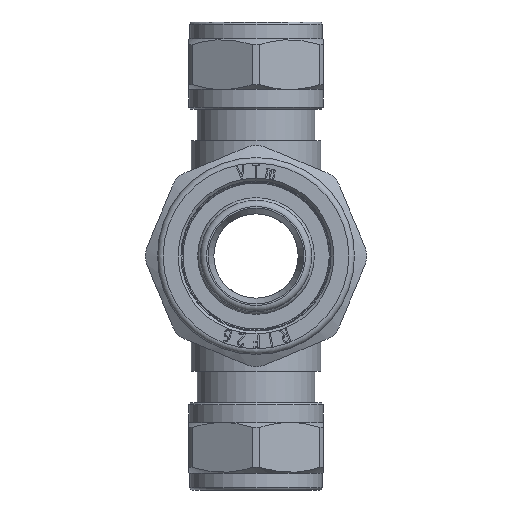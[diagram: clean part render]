
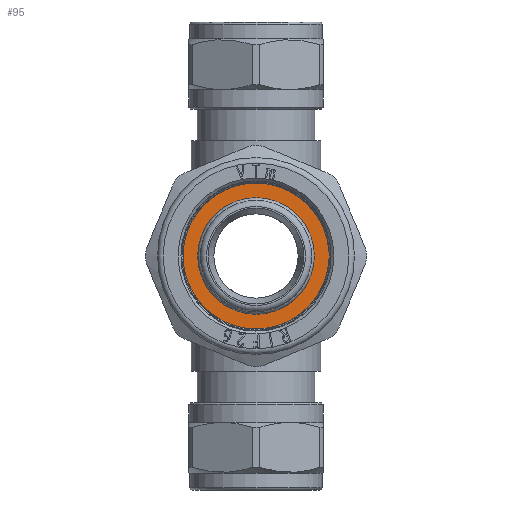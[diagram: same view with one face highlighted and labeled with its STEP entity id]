
A CAD part, front view. The second image highlights one B-rep face of the part: STEP entity #95.
In plain terms, the highlighted planar face has unit normal (0, -1, 0).
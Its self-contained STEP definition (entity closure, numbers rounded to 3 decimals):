
#95=ADVANCED_FACE('',(#1602,#1604),#1606,.T.);
#1602=FACE_BOUND('',#1603,.T.);
#1603=EDGE_LOOP('',(#11047));
#1604=FACE_BOUND('',#1605,.T.);
#1605=EDGE_LOOP('',(#11048));
#1606=PLANE('',#1607);
#1607=AXIS2_PLACEMENT_3D('',#1608,#1609,#1610);
#1608=CARTESIAN_POINT('',(0.,-22.9,0.));
#1609=DIRECTION('',(0.,-1.,0.));
#1610=DIRECTION('',(-1.,0.,0.));
#11047=ORIENTED_EDGE('',*,*,#19586,.T.);
#11048=ORIENTED_EDGE('',*,*,#19591,.T.);
#19586=EDGE_CURVE('',#23092,#23092,#23093,.F.);
#19591=EDGE_CURVE('',#23102,#23102,#23103,.F.);
#23092=VERTEX_POINT('',#29111);
#23093=CIRCLE('',#29112,13.1);
#23102=VERTEX_POINT('',#29136);
#23103=CIRCLE('',#29137,10.);
#29111=CARTESIAN_POINT('',(-13.1,-22.9,0.));
#29112=AXIS2_PLACEMENT_3D('',#29113,#29114,#29115);
#29113=CARTESIAN_POINT('',(0.,-22.9,0.));
#29114=DIRECTION('',(0.,1.,0.));
#29115=DIRECTION('',(-1.,0.,0.));
#29136=CARTESIAN_POINT('',(-10.,-22.9,0.));
#29137=AXIS2_PLACEMENT_3D('',#29138,#29139,#29140);
#29138=CARTESIAN_POINT('',(0.,-22.9,0.));
#29139=DIRECTION('',(0.,-1.,0.));
#29140=DIRECTION('',(-1.,0.,0.));
